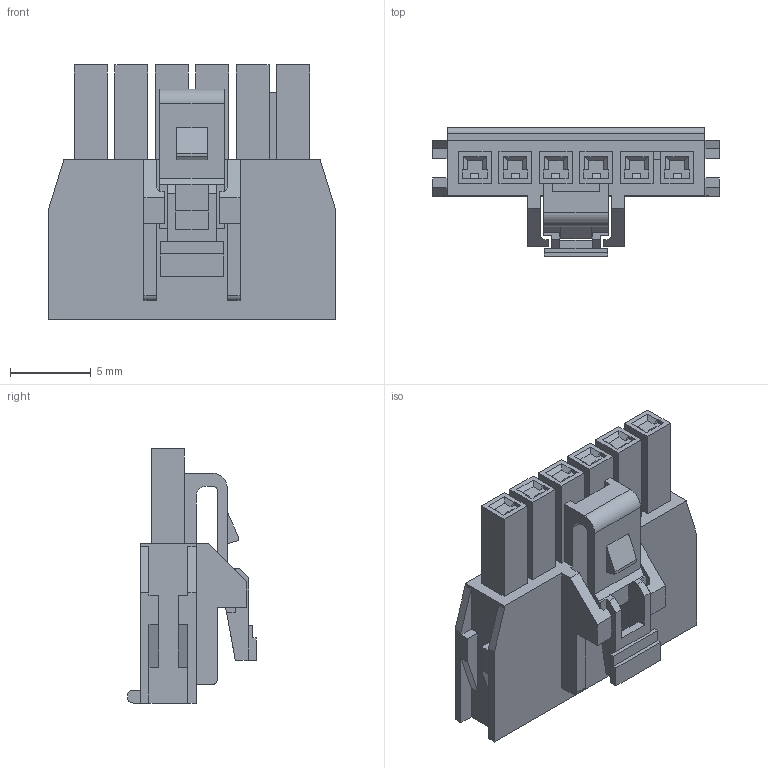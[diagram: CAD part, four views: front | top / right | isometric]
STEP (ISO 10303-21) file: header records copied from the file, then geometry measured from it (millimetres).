
FILE_DESCRIPTION (( 'STEP AP203' ), '1' );
FILE_NAME ('GT-A2513HM-106B01.STEP', '2026-06-18T08:47:20', ( '' ), ( '' ), 'SwSTEP 2.0', 'SolidWorks 2020', '' );
FILE_SCHEMA (( 'CONFIG_CONTROL_DESIGN' ));
Length unit declared in the file: millimetre
Products named in the file (1): GT-A2513HM-106B01
Bounding box: 17.7 x 7.96 x 15.7 mm (x, y, z)
Volume: 771.9 mm3; surface area: 1122.8 mm2
Topology: 1 solids, 1 shells, 576 faces, 1558 edges, 1018 vertices
Faces by surface type: plane 498, bspline 71, cylinder 7
Entity records: 21231 total; most frequent: CARTESIAN_POINT 7160, ORIENTED_EDGE 3116, DIRECTION 2442, EDGE_CURVE 1558, LINE 1402, VECTOR 1402, VERTEX_POINT 1018, EDGE_LOOP 612
